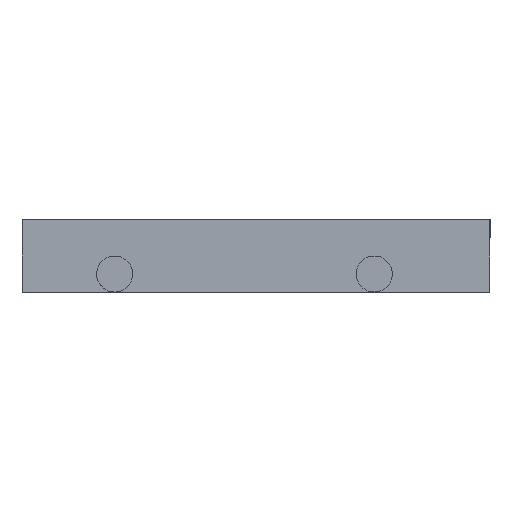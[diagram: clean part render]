
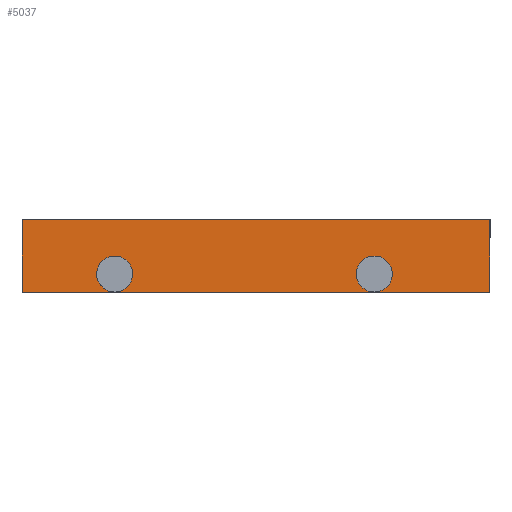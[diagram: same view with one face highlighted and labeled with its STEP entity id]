
A CAD part, left-side view. The second image highlights one B-rep face of the part: STEP entity #5037.
In plain terms, the highlighted planar face has unit normal (-1, 0, 0).
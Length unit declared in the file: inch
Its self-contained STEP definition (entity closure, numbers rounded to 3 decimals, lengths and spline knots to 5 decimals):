
#613 = CARTESIAN_POINT ( 'NONE',  ( -16., 1.605, -1. ) ) ;
#614 = DIRECTION ( 'NONE',  ( 0., 1., 0. ) ) ;
#615 = VECTOR ( 'NONE', #614, 39.37008 ) ;
#616 = CARTESIAN_POINT ( 'NONE',  ( -16., 0.43, -1. ) ) ;
#617 = LINE ( 'NONE', #616, #615 ) ;
#665 = CARTESIAN_POINT ( 'NONE',  ( -16., 6.49, -1. ) ) ;
#666 = DIRECTION ( 'NONE',  ( 0., 1., 0. ) ) ;
#667 = VECTOR ( 'NONE', #666, 39.37008 ) ;
#668 = CARTESIAN_POINT ( 'NONE',  ( -16., 0.43, -1. ) ) ;
#669 = LINE ( 'NONE', #668, #667 ) ;
#670 = CARTESIAN_POINT ( 'NONE',  ( -16., 5.205, -1. ) ) ;
#671 = DIRECTION ( 'NONE',  ( 0., 1., 0. ) ) ;
#672 = VECTOR ( 'NONE', #671, 39.37008 ) ;
#673 = CARTESIAN_POINT ( 'NONE',  ( -16., 0.43, -1. ) ) ;
#674 = LINE ( 'NONE', #673, #672 ) ;
#812 = CARTESIAN_POINT ( 'NONE',  ( -16., 0., -1. ) ) ;
#1833 = EDGE_CURVE ( 'NONE', #1834, #1835, #6686, .T. ) ;
#1834 = VERTEX_POINT ( 'NONE', #6677 ) ;
#1835 = VERTEX_POINT ( 'NONE', #6676 ) ;
#1849 = EDGE_CURVE ( 'NONE', #1850, #1851, #6719, .T. ) ;
#1850 = VERTEX_POINT ( 'NONE', #6715 ) ;
#1851 = VERTEX_POINT ( 'NONE', #6714 ) ;
#3935 = VERTEX_POINT ( 'NONE', #12469 ) ;
#3937 = EDGE_CURVE ( 'NONE', #3935, #3938, #12468, .T. ) ;
#3938 = VERTEX_POINT ( 'NONE', #12464 ) ;
#4280 = EDGE_CURVE ( 'NONE', #4366, #4281, #617, .T. ) ;
#4281 = VERTEX_POINT ( 'NONE', #613 ) ;
#4283 = EDGE_CURVE ( 'NONE', #4281, #4284, #674, .T. ) ;
#4284 = VERTEX_POINT ( 'NONE', #670 ) ;
#4286 = EDGE_CURVE ( 'NONE', #4284, #4287, #669, .T. ) ;
#4287 = VERTEX_POINT ( 'NONE', #665 ) ;
#4366 = VERTEX_POINT ( 'NONE', #812 ) ;
#4857 = EDGE_CURVE ( 'NONE', #3935, #4287, #7492, .T. ) ;
#4894 = EDGE_CURVE ( 'NONE', #1835, #4281, #7510, .T. ) ;
#4898 = EDGE_CURVE ( 'NONE', #4281, #1834, #7503, .T. ) ;
#4923 = EDGE_CURVE ( 'NONE', #4366, #3938, #7593, .T. ) ;
#4955 = EDGE_CURVE ( 'NONE', #1851, #4284, #7602, .T. ) ;
#4971 = ORIENTED_EDGE ( 'NONE', *, *, #4286, .F. ) ;
#4972 = ORIENTED_EDGE ( 'NONE', *, *, #4955, .F. ) ;
#4996 = EDGE_CURVE ( 'NONE', #4284, #1850, #7671, .T. ) ;
#5007 = ORIENTED_EDGE ( 'NONE', *, *, #1849, .F. ) ;
#5008 = ORIENTED_EDGE ( 'NONE', *, *, #4996, .F. ) ;
#5010 = ORIENTED_EDGE ( 'NONE', *, *, #4283, .F. ) ;
#5012 = ORIENTED_EDGE ( 'NONE', *, *, #4894, .F. ) ;
#5014 = ORIENTED_EDGE ( 'NONE', *, *, #1833, .F. ) ;
#5017 = ORIENTED_EDGE ( 'NONE', *, *, #4898, .F. ) ;
#5019 = ORIENTED_EDGE ( 'NONE', *, *, #4280, .F. ) ;
#5037 = ADVANCED_FACE ( 'NONE', ( #7752 ), #7751, .T. ) ;
#5038 = EDGE_LOOP ( 'NONE', ( #5042, #5043, #5045, #4971, #4972, #5007, #5008, #5010, #5012, #5014, #5017, #5019 ) ) ;
#5042 = ORIENTED_EDGE ( 'NONE', *, *, #4923, .T. ) ;
#5043 = ORIENTED_EDGE ( 'NONE', *, *, #3937, .F. ) ;
#5045 = ORIENTED_EDGE ( 'NONE', *, *, #4857, .T. ) ;
#6676 = CARTESIAN_POINT ( 'NONE',  ( -16., 1.60909, -0.50003 ) ) ;
#6677 = CARTESIAN_POINT ( 'NONE',  ( -16., 1.60091, -0.99997 ) ) ;
#6678 = DIRECTION ( 'NONE',  ( 0., 0., 1. ) ) ;
#6679 = DIRECTION ( 'NONE',  ( -1., 0., 0. ) ) ;
#6680 = CARTESIAN_POINT ( 'NONE',  ( -16., 1.605, -0.75 ) ) ;
#6681 = AXIS2_PLACEMENT_3D ( 'NONE', #6680, #6679, #6678 ) ;
#6686 = CIRCLE ( 'NONE', #6681, 0.25 ) ;
#6714 = CARTESIAN_POINT ( 'NONE',  ( -16., 5.21008, -0.50005 ) ) ;
#6715 = CARTESIAN_POINT ( 'NONE',  ( -16., 5.19992, -0.99995 ) ) ;
#6716 = DIRECTION ( 'NONE',  ( 0., 0., 1. ) ) ;
#6717 = DIRECTION ( 'NONE',  ( -1., 0., 0. ) ) ;
#6718 = AXIS2_PLACEMENT_3D ( 'NONE', #6724, #6717, #6716 ) ;
#6719 = CIRCLE ( 'NONE', #6718, 0.25 ) ;
#6724 = CARTESIAN_POINT ( 'NONE',  ( -16., 5.205, -0.75 ) ) ;
#7489 = DIRECTION ( 'NONE',  ( 0., 0., -1. ) ) ;
#7490 = VECTOR ( 'NONE', #7489, 39.37008 ) ;
#7491 = CARTESIAN_POINT ( 'NONE',  ( -16., 6.49, 0. ) ) ;
#7492 = LINE ( 'NONE', #7491, #7490 ) ;
#7502 = AXIS2_PLACEMENT_3D ( 'NONE', #7565, #7564, #7563 ) ;
#7503 = CIRCLE ( 'NONE', #7502, 0.25 ) ;
#7506 = DIRECTION ( 'NONE',  ( 0., 0., 1. ) ) ;
#7507 = DIRECTION ( 'NONE',  ( -1., 0., 0. ) ) ;
#7508 = CARTESIAN_POINT ( 'NONE',  ( -16., 1.605, -0.75 ) ) ;
#7509 = AXIS2_PLACEMENT_3D ( 'NONE', #7508, #7507, #7506 ) ;
#7510 = CIRCLE ( 'NONE', #7509, 0.25 ) ;
#7563 = DIRECTION ( 'NONE',  ( 0., 0., 1. ) ) ;
#7564 = DIRECTION ( 'NONE',  ( -1., 0., 0. ) ) ;
#7565 = CARTESIAN_POINT ( 'NONE',  ( -16., 1.605, -0.75 ) ) ;
#7586 = DIRECTION ( 'NONE',  ( 0., 0., 1. ) ) ;
#7587 = VECTOR ( 'NONE', #7586, 39.37008 ) ;
#7588 = CARTESIAN_POINT ( 'NONE',  ( -16., 0., -1. ) ) ;
#7593 = LINE ( 'NONE', #7588, #7587 ) ;
#7599 = DIRECTION ( 'NONE',  ( -1., 0., 0. ) ) ;
#7600 = CARTESIAN_POINT ( 'NONE',  ( -16., 5.205, -0.75 ) ) ;
#7601 = AXIS2_PLACEMENT_3D ( 'NONE', #7600, #7599, #7664 ) ;
#7602 = CIRCLE ( 'NONE', #7601, 0.25 ) ;
#7664 = DIRECTION ( 'NONE',  ( 0., 0., 1. ) ) ;
#7667 = DIRECTION ( 'NONE',  ( 0., 0., 1. ) ) ;
#7668 = DIRECTION ( 'NONE',  ( -1., 0., 0. ) ) ;
#7669 = CARTESIAN_POINT ( 'NONE',  ( -16., 5.205, -0.75 ) ) ;
#7670 = AXIS2_PLACEMENT_3D ( 'NONE', #7669, #7668, #7667 ) ;
#7671 = CIRCLE ( 'NONE', #7670, 0.25 ) ;
#7746 = DIRECTION ( 'NONE',  ( 0., -1., 0. ) ) ;
#7747 = DIRECTION ( 'NONE',  ( -1., 0., 0. ) ) ;
#7748 = CARTESIAN_POINT ( 'NONE',  ( -16., 0.43, 0. ) ) ;
#7749 = AXIS2_PLACEMENT_3D ( 'NONE', #7748, #7747, #7746 ) ;
#7751 = PLANE ( 'NONE',  #7749 ) ;
#7752 = FACE_OUTER_BOUND ( 'NONE', #5038, .T. ) ;
#12464 = CARTESIAN_POINT ( 'NONE',  ( -16., 0., 0. ) ) ;
#12465 = DIRECTION ( 'NONE',  ( 0., -1., 0. ) ) ;
#12466 = VECTOR ( 'NONE', #12465, 39.37008 ) ;
#12467 = CARTESIAN_POINT ( 'NONE',  ( -16., 0.43, 0. ) ) ;
#12468 = LINE ( 'NONE', #12467, #12466 ) ;
#12469 = CARTESIAN_POINT ( 'NONE',  ( -16., 6.49, 0. ) ) ;
